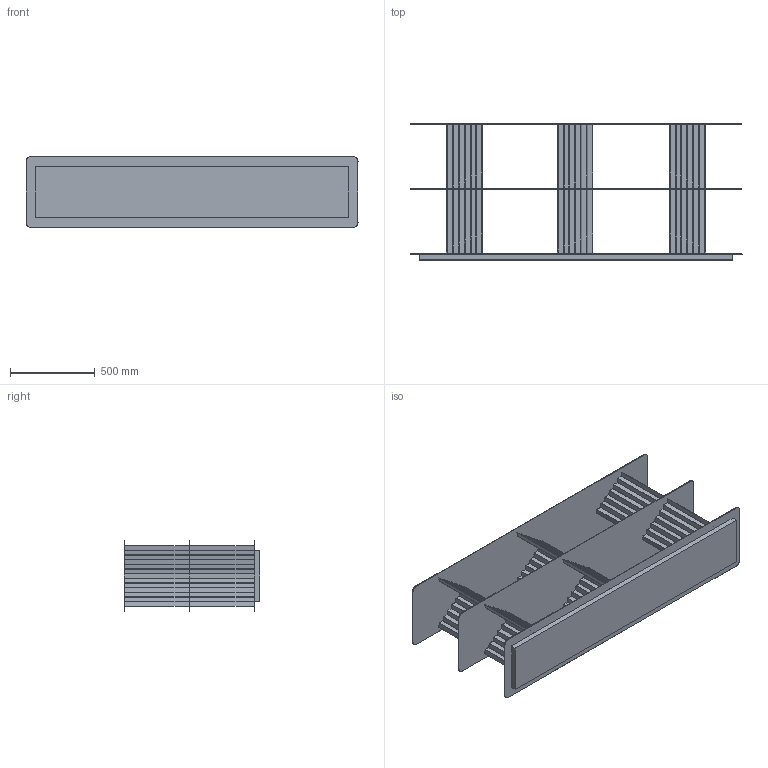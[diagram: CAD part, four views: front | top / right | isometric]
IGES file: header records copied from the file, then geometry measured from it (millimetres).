
Start section: SolidWorks IGES file using analytic representation for surfaces
Global section: file name: Z:\30-Ingenieria I+D\Proyectos\03-Plec_Shelves APO\1-sw\WEB\Arxius\PLEC SHELVES M 2 NIVELES.IGS; native system: SolidWorks 2020; preprocessor: SolidWorks 2020; author: Bernat Llonch; date: 250508.120035; units: millimetre
Bounding box: 1961 x 803 x 420 mm (x, y, z)
Surface area: 9547854.3 mm2 (no closed solid volume)
Topology: 0 solids, 0 shells, 360 faces, 2208 edges, 2208 vertices
Faces by surface type: bspline 348, revolution 12
